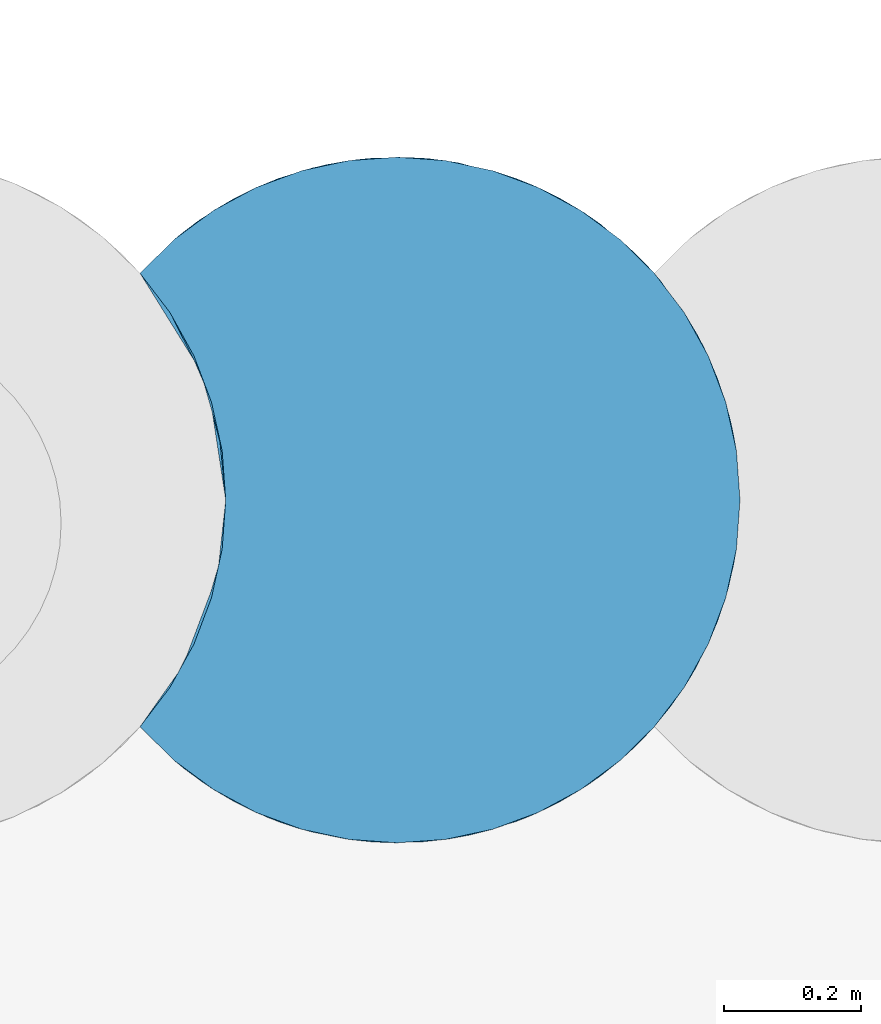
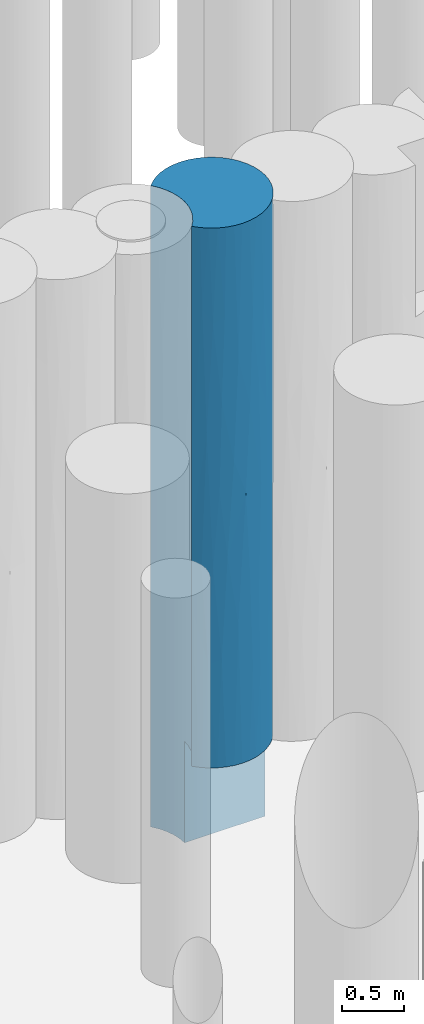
# One storey, part 87 of 104: 1 pile.
"""IFC2X3 building model written with IfcOpenShell, lengths in millimetres."""

from ifc_helpers import new_model, entity, si_unit, converted_unit, derived_unit, direction, frame, origin, place, context, subcontext, project, spatial, faceted_brep, source, transform, mapped, material, element, save


model = new_model("IFC2X3")

# Units and contexts
model_context = context("Model", 3, precision=0.01, world=origin(), true_north=direction((6.12303176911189e-17, 1.0)))
body_context = subcontext(model_context, "Body", "Model", "MODEL_VIEW")
ifc_project = project(units=[si_unit("LENGTHUNIT", "METRE", prefix="MILLI"), si_unit("AREAUNIT", "SQUARE_METRE", prefix="MILLI"), si_unit("VOLUMEUNIT", "CUBIC_METRE"), converted_unit("PLANEANGLEUNIT", "DEGREE", entity("IfcRatioMeasure", 0.0174532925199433), si_unit("PLANEANGLEUNIT", "RADIAN"), dimensions=[0, 0, 0, 0, 0, 0, 0]), si_unit("MASSUNIT", "GRAM", prefix="KILO"), derived_unit("MASSDENSITYUNIT", [(si_unit("MASSUNIT", "GRAM", prefix="KILO"), 1), (si_unit("LENGTHUNIT", "METRE"), -3)]), derived_unit("MOMENTOFINERTIAUNIT", [(si_unit("LENGTHUNIT", "METRE"), 4)]), si_unit("TIMEUNIT", "SECOND"), si_unit("FREQUENCYUNIT", "HERTZ"), si_unit("THERMODYNAMICTEMPERATUREUNIT", "DEGREE_CELSIUS"), derived_unit("THERMALTRANSMITTANCEUNIT", [(si_unit("MASSUNIT", "GRAM", prefix="KILO"), 1), (si_unit("THERMODYNAMICTEMPERATUREUNIT", "KELVIN"), -1), (si_unit("TIMEUNIT", "SECOND"), -3)]), derived_unit("VOLUMETRICFLOWRATEUNIT", [(si_unit("LENGTHUNIT", "METRE"), 3), (si_unit("TIMEUNIT", "SECOND"), -1)]), si_unit("ELECTRICCURRENTUNIT", "AMPERE"), si_unit("ELECTRICVOLTAGEUNIT", "VOLT"), si_unit("POWERUNIT", "WATT"), si_unit("FORCEUNIT", "NEWTON", prefix="KILO"), si_unit("ILLUMINANCEUNIT", "LUX"), si_unit("LUMINOUSFLUXUNIT", "LUMEN"), si_unit("LUMINOUSINTENSITYUNIT", "CANDELA"), derived_unit("USERDEFINED", [(si_unit("MASSUNIT", "GRAM", prefix="KILO"), -1), (si_unit("LENGTHUNIT", "METRE"), -2), (si_unit("TIMEUNIT", "SECOND"), 3), (si_unit("LUMINOUSFLUXUNIT", "LUMEN"), 1)]), derived_unit("LINEARVELOCITYUNIT", [(si_unit("LENGTHUNIT", "METRE"), 1), (si_unit("TIMEUNIT", "SECOND"), -1)]), si_unit("PRESSUREUNIT", "PASCAL"), derived_unit("USERDEFINED", [(si_unit("LENGTHUNIT", "METRE"), -2), (si_unit("MASSUNIT", "GRAM", prefix="KILO"), 1), (si_unit("TIMEUNIT", "SECOND"), -2)]), derived_unit("LINEARFORCEUNIT", [(si_unit("MASSUNIT", "GRAM", prefix="KILO"), 1), (si_unit("LENGTHUNIT", "METRE"), 1), (si_unit("TIMEUNIT", "SECOND"), -2), (si_unit("LENGTHUNIT", "METRE"), -1)]), derived_unit("PLANARFORCEUNIT", [(si_unit("MASSUNIT", "GRAM", prefix="KILO"), 1), (si_unit("LENGTHUNIT", "METRE"), 1), (si_unit("TIMEUNIT", "SECOND"), -2), (si_unit("LENGTHUNIT", "METRE"), -2)])], contexts=[model_context])

# Site, building, storey
site_placement = place(None, origin())
site = spatial("IfcSite", under=ifc_project, at=site_placement, Name="Theater aan de Parade", CompositionType="ELEMENT")
building_placement = place(site_placement, origin())
building = spatial("IfcBuilding", under=site, at=building_placement, Name="Theater aan de Parade", CompositionType="ELEMENT")
storey_placement = place(building_placement, frame((0.0, 0.0, -5520.0)))
storey = spatial("IfcBuildingStorey", under=building, at=storey_placement, Name="-2 kelder", CompositionType="ELEMENT", Elevation=-5520.0)

# Pile
ifc_material = material(Name="00_PBT_MAT_grout")
shared_shape = source(origin(), body_context, "Body", "Brep", [
    faceted_brep([(447.024567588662, 996.610134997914, 0.0), (516.050365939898, 981.753867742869, 0.0), (582.295809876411, 957.322481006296, 0.0), (644.440261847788, 923.802640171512, 0.0), (701.244632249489, 881.862011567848, 0.0), (751.56469811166, 832.344511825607, 0.0), (795.307447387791, 774.871898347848, 0.0), (830.306104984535, 711.705910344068, 0.0), (855.841245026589, 644.155075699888, 0.0), (871.379164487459, 573.629291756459, 0.0), (876.595272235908, 501.595272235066, 0.0), (126.595272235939, 501.595272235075, 0.0), (121.380912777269, 573.617282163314, 0.0), (105.846592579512, 644.13709749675, 0.0), (80.3163177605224, 711.68385557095, 0.0), (45.3225844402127, 774.848704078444, 0.0), (1.5952722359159, 832.31418611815, 0.0), (51.9353252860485, 881.852972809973, 0.0), (108.741467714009, 923.797047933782, 0.0), (170.888616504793, 957.319719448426, 0.0), (237.136331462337, 981.752750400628, 0.0), (306.163620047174, 996.609799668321, 0.0), (376.59435299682, 1001.59527223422, 0.0), (794.756123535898, 775.714776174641, 1228.81272915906), (549.604882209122, 970.708984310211, 4489.81932615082), (520.051793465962, 980.573587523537, 5382.91341902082), (613.960467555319, 941.660908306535, 5318.51941458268), (876.595272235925, 501.595272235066, 1000.0), (871.379164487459, 573.629291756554, 6320.0), (876.595272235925, 501.59527223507, 6320.0), (876.595272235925, 501.595272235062, 5539.2311470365), (876.595272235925, 501.59527223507, 4758.46227378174), (520.051793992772, 980.57358736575, 937.086578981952), (844.29483265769, 678.392108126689, 1164.36332466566), (271.387390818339, 990.401268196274, 1001.48399115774), (613.960468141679, 941.660907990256, 1001.48058281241), (465.503122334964, 993.627175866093, 3572.95728768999), (591.957496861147, 952.837016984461, 2592.25031757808), (425.191522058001, 999.228073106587, 2413.69991540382), (51.9353254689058, 881.852972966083, 6320.0), (108.741467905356, 923.797048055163, 6320.0), (62.3331531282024, 890.490271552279, 5148.84671821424), (727.290636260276, 857.983770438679, 1464.86322289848), (813.948631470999, 743.921579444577, 2176.75510940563), (411.897565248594, 1000.34746331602, 1347.03164863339), (170.419670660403, 957.107754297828, 3160.0), (89.836082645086, 911.191618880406, 2088.29114741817), (79.5245862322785, 903.775589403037, 3056.90562258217), (844.294831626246, 678.392110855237, 4334.71686722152), (813.948631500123, 743.921579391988, 5244.0425082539), (856.701469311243, 641.230652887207, 5294.90075363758), (317.324708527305, 998.069843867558, 2005.67899400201), (139.222527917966, 941.65683639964, 5318.51289021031), (271.387391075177, 990.401268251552, 5318.51600899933), (203.580632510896, 970.707129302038, 4489.82136728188), (855.841245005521, 644.155075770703, 6320.0), (830.30610490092, 711.705910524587, 6320.0), (411.897565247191, 1000.34746331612, 4972.96835150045), (376.594352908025, 1001.59527223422, 6320.0), (447.024567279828, 996.610135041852, 6320.0), (876.595272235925, 501.595272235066, 2098.46227378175), (869.33323081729, 586.502893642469, 1549.23112851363), (646.43942266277, 922.527730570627, 4378.31323819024), (861.144910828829, 624.930781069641, 2647.6933898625), (139.222527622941, 941.656836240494, 1001.48711016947), (795.307447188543, 774.87189865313, 6320.0), (576.32127061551, 959.972328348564, 3449.19162586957), (751.585178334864, 832.325631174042, 6320.0), (727.290636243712, 857.983770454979, 5537.32646657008), (701.244631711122, 881.862012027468, 6320.0), (203.580632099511, 970.707129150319, 1830.17863376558), (644.440261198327, 923.802640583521, 6320.0), (341.290873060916, 1000.34731423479, 3160.0), (253.934917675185, 986.316261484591, 2717.65300360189), (650.019734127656, 920.210923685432, 1972.39054739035), (549.604882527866, 970.708984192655, 1830.18066998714), (62.3331529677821, 890.490271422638, 1171.15328050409), (876.595272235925, 501.595272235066, 3196.92454756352), (876.595272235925, 501.595272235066, 2561.5377059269), (793.001015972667, 778.373625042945, 4276.18344993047), (864.687323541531, 610.067155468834, 3612.80310461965), (727.290635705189, 857.983770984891, 4689.95415944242), (1.5952722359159, 832.314186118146, 5539.23003355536), (1.5952722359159, 832.314186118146, 4758.46006711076), (1.59527223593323, 832.314186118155, 780.769966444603), (1.59527223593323, 832.314186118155, 1561.53474018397), (582.295809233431, 957.322481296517, 6320.0), (516.050365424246, 981.753867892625, 6320.0), (1.5952722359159, 832.314186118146, 6320.0), (170.888616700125, 957.319719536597, 6320.0), (760.967406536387, 821.37341778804, 2912.00306888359), (306.163620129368, 996.609799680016, 6320.0), (237.13633163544, 981.752750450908, 6320.0), (317.32470884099, 998.069843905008, 4314.32100595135), (824.270181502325, 724.277053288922, 3295.1742905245), (740.362063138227, 844.631308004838, 3786.33735840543), (89.8360828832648, 911.191619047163, 4231.70885066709), (1.5952722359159, 832.314186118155, 2342.30678423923), (1.59527223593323, 832.31418611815, 3123.07467307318), (1.59527223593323, 832.31418611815, 3940.76996644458), (1.5952722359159, 832.314186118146, 4721.53776053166), (868.318681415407, 592.193775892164, 4573.56444361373), (673.583725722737, 903.83631749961, 3160.0), (876.595272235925, 501.595272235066, 4123.07541185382), (1.59527223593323, 832.31418611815, 3922.30692768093), (203.582286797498, 32.4828050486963, 2063.74645387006), (104.799222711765, 81.9205083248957, 2017.2405625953), (170.888936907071, 45.8706803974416, 1000.0), (306.169463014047, 6.57991348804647, 1000.0), (237.139379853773, 21.4369086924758, 1000.0), (108.739323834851, 79.3948566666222, 1000.0), (844.298622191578, 324.808461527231, 1964.8450972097), (855.843884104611, 359.044340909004, 1000.0), (871.380005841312, 429.567032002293, 1000.0), (51.9315440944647, 121.340800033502, 1000.0), (249.149636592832, 18.1104121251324, 3064.60351294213), (341.298032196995, 2.84272352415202, 2389.43952600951), (481.811471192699, 12.7910665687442, 1910.77219920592), (447.03519414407, 6.58192150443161, 1000.0), (516.062532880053, 21.4402106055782, 1000.0), (795.307447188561, 228.31864581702, 6320.0), (804.969430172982, 243.727901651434, 5501.66350533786), (830.30610490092, 291.484633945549, 6320.0), (376.602802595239, 1.59527229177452, 1000.0), (727.301618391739, 145.217581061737, 3659.99144225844), (673.596082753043, 99.3633508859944, 2270.79748972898), (774.493590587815, 198.813290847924, 2390.35009709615), (481.800031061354, 12.7886041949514, 5409.25641590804), (453.100427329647, 7.48297604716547, 4513.69340896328), (549.604883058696, 32.4815604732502, 4692.84905904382), (226.910865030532, 24.526536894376, 5446.00106667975), (237.136331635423, 21.4377940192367, 6320.0), (170.888616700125, 45.8708249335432, 6320.0), (203.580632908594, 32.4834150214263, 4596.17974534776), (186.509828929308, 39.1371398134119, 3719.13089890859), (302.739707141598, 7.079998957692, 3999.49399943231), (567.354968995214, 39.4148549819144, 1816.12742483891), (549.617476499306, 32.4862051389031, 2627.20563650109), (582.308728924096, 45.8738949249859, 1000.0), (613.960468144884, 61.5296364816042, 5409.2548336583), (139.222528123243, 61.5337079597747, 5366.36140196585), (94.9848091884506, 88.4420959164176, 4306.2071849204), (66.1639001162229, 109.635627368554, 5518.62855545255), (1.5952722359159, 170.876358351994, 3342.30222810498), (1.5952722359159, 170.876358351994, 4123.06361893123), (701.244631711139, 121.328532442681, 6320.0), (727.290636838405, 145.20677460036, 5009.81933080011), (751.585178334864, 170.864913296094, 6320.0), (51.9353254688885, 121.337571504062, 6320.0), (1.5952722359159, 170.876358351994, 6320.0), (1.5952722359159, 170.876358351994, 5539.22055354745), (108.741467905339, 79.3934964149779, 6320.0), (830.31122192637, 291.495683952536, 1000.0), (306.163620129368, 6.58074479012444, 6320.0), (868.398757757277, 411.432465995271, 5503.47129762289), (859.976701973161, 373.757901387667, 4296.8562117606), (376.594352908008, 1.5952722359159, 6320.0), (341.290874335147, 2.84323014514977, 4999.47557712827), (751.595272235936, 170.87635835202, 1000.0), (795.315189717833, 228.330509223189, 1000.0), (516.050365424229, 21.4366765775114, 6320.0), (447.024567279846, 6.58040942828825, 6320.0), (844.298622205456, 324.808461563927, 2985.23218810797), (453.112845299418, 7.48489892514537, 2806.34173780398), (1.5952722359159, 170.876358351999, 2561.54083727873), (1.59527223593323, 170.876358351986, 1780.7688531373), (1.5952722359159, 170.876358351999, 1000.0), (644.453065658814, 79.3960272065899, 1000.0), (701.256460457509, 121.338631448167, 1000.0), (644.440261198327, 79.3879038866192, 6320.0), (868.741967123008, 413.325058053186, 3421.75623803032), (411.907133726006, 2.84375851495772, 3659.99398159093), (801.333356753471, 237.781778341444, 3614.51908154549), (866.898348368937, 403.600917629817, 2475.03864258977), (139.221565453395, 61.5342272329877, 2966.67369440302), (855.841245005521, 359.035468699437, 6320.0), (844.294832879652, 324.798436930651, 5400.40783371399), (577.171561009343, 43.5896473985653, 3660.04365239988), (656.879911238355, 87.5415062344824, 3205.14514333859), (651.229971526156, 83.772604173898, 4395.20285150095), (582.295809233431, 45.8680631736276, 6320.0), (813.948632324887, 259.268966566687, 4682.88089299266), (871.379164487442, 429.561252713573, 6320.0), (61.5885442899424, 113.303163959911, 2951.92213452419), (1.5952722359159, 170.876358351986, 3196.92458745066), (1.59527223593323, 170.876358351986, 4758.46229372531), (121.380912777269, 573.617282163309, 6320.0), (126.595272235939, 501.595272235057, 6320.0), (121.380912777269, 429.573262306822, 6320.0), (105.846592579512, 359.05344697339, 6320.0), (80.3163177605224, 291.506688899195, 6320.0), (45.3225844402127, 228.341840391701, 6320.0), (45.3225844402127, 774.848704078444, 6320.0), (80.3163177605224, 711.683855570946, 6320.0), (105.846592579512, 644.137097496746, 6320.0), (126.595272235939, 501.59527223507, 1000.0), (126.595272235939, 501.595272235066, 4758.46227344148), (126.595272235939, 501.595272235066, 5539.23114702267), (103.716989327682, 651.110713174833, 929.57030215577), (117.506504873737, 596.496071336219, 2931.36424013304), (119.581500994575, 585.049320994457, 1600.95905710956), (126.595272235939, 501.59527223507, 2098.46227344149), (63.9612327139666, 743.898835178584, 1002.25156593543), (57.034257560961, 756.001010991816, 3976.06843691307), (59.0094113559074, 752.62915896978, 4844.99935350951), (94.3024450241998, 678.371969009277, 5355.1793706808), (52.6084708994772, 763.344684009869, 1951.92213360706), (94.3024450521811, 678.371968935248, 1823.06883573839), (89.4529642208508, 690.705708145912, 3078.94407721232), (119.451546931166, 585.813396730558, 3842.56157073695), (94.3024444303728, 678.371970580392, 4334.81933337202), (116.899441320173, 599.584158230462, 4844.99935891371), (126.595272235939, 501.59527223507, 3196.92454688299), (126.595272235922, 501.595272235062, 4123.07541190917), (126.595272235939, 501.595272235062, 2561.53770595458), (114.888484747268, 394.032552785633, 5404.38906559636), (63.9612331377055, 259.29171005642, 5404.38906552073), (52.4390141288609, 239.570259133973, 2802.0358188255), (63.9612331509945, 259.291710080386, 1947.59403560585), (94.3024456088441, 324.818577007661, 2700.69910324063), (114.888484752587, 394.032552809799, 1947.59403553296), (80.3163177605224, 291.506688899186, 1000.0), (45.3225844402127, 228.341840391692, 1000.0), (119.327197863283, 416.65264767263, 4541.19743988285), (86.8326465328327, 306.194250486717, 3696.32218371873), (117.80911316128, 408.273450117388, 3449.75323103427), (105.846592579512, 359.053446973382, 1000.0), (121.380912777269, 429.573262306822, 1000.0), (94.3024455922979, 324.818576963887, 4691.94526432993), (54.0384103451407, 242.187555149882, 4333.70688615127)], [[[0, 1, 2, 3, 4, 5, 6, 7, 8, 9, 10, 11, 12, 13, 14, 15, 16, 17, 18, 19, 20, 21, 22]], [[7, 6, 23]], [[24, 25, 26]], [[10, 9, 27]], [[28, 29, 30, 31]], [[1, 32, 2]], [[33, 9, 8]], [[19, 34, 20]], [[3, 2, 35]], [[36, 37, 38]], [[39, 40, 41]], [[42, 43, 23]], [[23, 43, 33]], [[42, 5, 4]], [[32, 35, 2]], [[32, 0, 44]], [[45, 46, 47]], [[5, 42, 23]], [[8, 7, 33]], [[48, 49, 50]], [[51, 44, 34]], [[52, 53, 54]], [[55, 50, 56]], [[57, 58, 59]], [[60, 27, 61]], [[24, 26, 62]], [[56, 50, 49]], [[63, 33, 43]], [[64, 19, 18]], [[49, 65, 56]], [[66, 37, 36]], [[67, 68, 69]], [[34, 64, 70]], [[68, 26, 71]], [[72, 51, 73]], [[35, 74, 42]], [[74, 35, 75]], [[75, 35, 32]], [[68, 71, 69]], [[20, 34, 21]], [[4, 35, 42]], [[76, 18, 17]], [[63, 77, 78, 60]], [[31, 50, 28]], [[79, 49, 48]], [[33, 61, 9]], [[4, 3, 35]], [[64, 34, 19]], [[77, 63, 80]], [[49, 81, 68]], [[82, 41, 83]], [[76, 84, 85]], [[68, 65, 49]], [[26, 86, 71]], [[86, 26, 25]], [[86, 25, 87]], [[88, 39, 82]], [[17, 16, 84]], [[89, 52, 40]], [[25, 59, 87]], [[81, 49, 79]], [[42, 74, 90]], [[53, 58, 57]], [[91, 53, 92]], [[70, 64, 46]], [[36, 57, 24]], [[38, 44, 51]], [[53, 89, 92]], [[22, 21, 34]], [[52, 89, 53]], [[53, 93, 54]], [[22, 44, 0]], [[62, 26, 81]], [[94, 95, 79]], [[51, 34, 70]], [[22, 34, 44]], [[76, 17, 84]], [[76, 46, 64]], [[58, 53, 91]], [[93, 53, 57]], [[96, 52, 54]], [[41, 40, 52]], [[68, 67, 65]], [[26, 68, 81]], [[46, 85, 97, 98]], [[96, 99, 100, 83]], [[46, 98, 47]], [[96, 54, 45]], [[47, 99, 96]], [[45, 54, 93]], [[46, 45, 70]], [[48, 101, 80]], [[63, 60, 61]], [[63, 43, 94]], [[73, 70, 45]], [[38, 51, 72]], [[36, 93, 57]], [[93, 72, 73]], [[37, 74, 75]], [[90, 74, 102]], [[36, 38, 72]], [[75, 44, 38]], [[36, 72, 93]], [[36, 24, 66]], [[95, 62, 81]], [[66, 62, 102]], [[48, 94, 79]], [[90, 95, 94]], [[94, 48, 80]], [[90, 94, 43]], [[42, 90, 43]], [[95, 81, 79]], [[28, 50, 55]], [[101, 48, 50]], [[0, 32, 1]], [[44, 75, 32]], [[24, 57, 25]], [[59, 25, 57]], [[90, 102, 95]], [[62, 95, 102]], [[62, 66, 24]], [[102, 74, 37]], [[9, 61, 27]], [[63, 61, 33]], [[7, 23, 33]], [[5, 23, 6]], [[50, 31, 101]], [[80, 31, 103, 77]], [[80, 101, 31]], [[94, 80, 63]], [[38, 37, 75]], [[102, 37, 66]], [[46, 76, 85]], [[76, 64, 18]], [[41, 96, 83]], [[39, 41, 82]], [[96, 41, 52]], [[96, 45, 47]], [[47, 98, 104, 99]], [[70, 73, 51]], [[93, 73, 45]], [[105, 106, 107]], [[108, 105, 109]], [[106, 110, 107]], [[111, 112, 113]], [[114, 110, 106]], [[115, 105, 116]], [[117, 118, 119]], [[120, 121, 122]], [[123, 118, 117]], [[124, 125, 126]], [[127, 128, 129]], [[130, 131, 132]], [[116, 108, 123]], [[133, 134, 135]], [[136, 137, 117]], [[136, 117, 119]], [[108, 116, 105]], [[136, 119, 138]], [[139, 127, 129]], [[130, 140, 133]], [[141, 140, 142]], [[143, 141, 144]], [[145, 146, 147]], [[148, 149, 150]], [[142, 148, 150]], [[132, 151, 140]], [[132, 140, 130]], [[112, 111, 152]], [[130, 153, 131]], [[154, 155, 103]], [[127, 156, 157]], [[158, 159, 126]], [[127, 160, 161]], [[126, 111, 162]], [[163, 116, 117]], [[114, 164, 165, 166]], [[125, 167, 168]], [[145, 169, 139]], [[158, 126, 125]], [[170, 155, 162]], [[113, 27, 60, 78]], [[128, 135, 171]], [[105, 107, 109]], [[172, 126, 162]], [[111, 159, 152]], [[162, 111, 173]], [[126, 159, 111]], [[106, 105, 174]], [[140, 141, 133]], [[175, 122, 176]], [[177, 178, 179]], [[160, 127, 180]], [[157, 156, 153]], [[139, 180, 127]], [[180, 139, 169]], [[115, 174, 105]], [[178, 125, 124]], [[121, 146, 181]], [[146, 121, 147]], [[173, 113, 78]], [[124, 172, 181]], [[146, 139, 179]], [[176, 121, 181]], [[171, 163, 177]], [[154, 175, 176]], [[136, 167, 125]], [[154, 103, 31, 30]], [[158, 125, 168]], [[181, 146, 124]], [[30, 29, 182]], [[142, 151, 148]], [[142, 144, 141]], [[163, 117, 137]], [[123, 117, 116]], [[156, 127, 161]], [[157, 135, 128]], [[179, 139, 129]], [[145, 139, 146]], [[176, 181, 155]], [[182, 154, 30]], [[172, 155, 181]], [[170, 162, 173]], [[183, 143, 184, 164]], [[134, 141, 174]], [[177, 179, 129]], [[124, 146, 179]], [[171, 115, 116]], [[134, 174, 115]], [[177, 129, 128]], [[178, 137, 125]], [[177, 163, 137]], [[116, 163, 171]], [[157, 128, 127]], [[177, 128, 171]], [[106, 174, 183]], [[114, 106, 164]], [[113, 173, 111]], [[170, 78, 77, 103]], [[78, 170, 173]], [[103, 155, 170]], [[133, 157, 130]], [[153, 130, 157]], [[143, 183, 141]], [[106, 183, 164]], [[141, 183, 174]], [[167, 136, 138]], [[125, 137, 136]], [[122, 121, 176]], [[121, 120, 147]], [[135, 134, 115]], [[141, 134, 133]], [[175, 154, 182]], [[155, 154, 176]], [[142, 150, 185, 144]], [[151, 142, 140]], [[126, 172, 124]], [[155, 172, 162]], [[133, 135, 157]], [[115, 171, 135]], [[179, 178, 124]], [[137, 178, 177]], [[186, 187, 188, 189, 190, 191, 149, 148, 151, 132, 131, 153, 156, 161, 160, 180, 169, 145, 147, 120, 122, 175, 182, 29, 28, 55, 56, 65, 67, 69, 71, 86, 87, 59, 58, 91, 92, 89, 40, 39, 88, 192, 193, 194]], [[195, 12, 11]], [[186, 196, 197, 187]], [[14, 13, 198]], [[199, 200, 201]], [[15, 202, 16]], [[100, 203, 204]], [[205, 194, 193]], [[14, 202, 15]], [[198, 13, 12]], [[206, 207, 208]], [[209, 210, 208]], [[193, 192, 205]], [[204, 205, 192]], [[196, 186, 211]], [[198, 202, 14]], [[207, 202, 198]], [[209, 211, 210]], [[211, 205, 210]], [[212, 209, 199]], [[202, 85, 84, 16]], [[186, 194, 205]], [[192, 88, 82, 83, 100]], [[210, 205, 204]], [[98, 97, 85, 206]], [[205, 211, 186]], [[209, 212, 213, 196]], [[211, 209, 196]], [[208, 199, 209]], [[210, 204, 203]], [[195, 200, 198]], [[199, 208, 207]], [[199, 201, 214, 212]], [[203, 100, 99, 104, 98]], [[100, 204, 192]], [[203, 208, 210]], [[208, 203, 98]], [[207, 198, 200]], [[195, 198, 12]], [[207, 200, 199]], [[201, 200, 195]], [[85, 202, 206]], [[98, 206, 208]], [[207, 206, 202]], [[189, 215, 216, 190]], [[188, 187, 197]], [[165, 217, 218]], [[219, 220, 218]], [[221, 222, 218]], [[223, 215, 197]], [[216, 185, 150, 149]], [[219, 224, 225]], [[214, 220, 225]], [[189, 188, 215]], [[221, 218, 220, 226]], [[227, 220, 195]], [[191, 190, 216]], [[226, 220, 227]], [[215, 228, 216]], [[225, 223, 213]], [[220, 214, 201, 195]], [[184, 229, 217]], [[225, 213, 212, 214]], [[165, 222, 166]], [[219, 218, 217]], [[218, 222, 165]], [[191, 216, 149]], [[185, 216, 229]], [[228, 215, 223]], [[215, 188, 197]], [[223, 225, 224]], [[223, 197, 196, 213]], [[228, 223, 224]], [[220, 219, 225]], [[228, 224, 229]], [[217, 229, 224]], [[228, 229, 216]], [[229, 184, 143, 144, 185]], [[219, 217, 224]], [[217, 165, 164, 184]], [[158, 168, 167, 138, 119, 118, 123, 108, 109, 107, 110, 114, 166, 222, 221, 226, 227, 195, 27, 113, 112, 152, 159]], [[27, 195, 11, 10]]]),
])
pile_placement = place(storey_placement, frame((79373.4047277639, 20202.3807468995, -3840.0)))
element("IfcPile", 1, at=pile_placement, inside=storey, material=ifc_material, Name="17_PBT_SFO_grondkering_rond:Ø1000 (grondkering)", ObjectType="17_PBT_SFO_grondkering_rond:Ø1000 (grondkering)", PredefinedType="NOTDEFINED", context=body_context, shape_type="MappedRepresentation", body=[
    mapped(shared_shape, transform((0.0, 0.0, 0.0), scale=1.0)),
])

save(model, "model.ifc")
